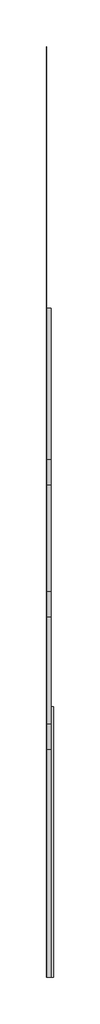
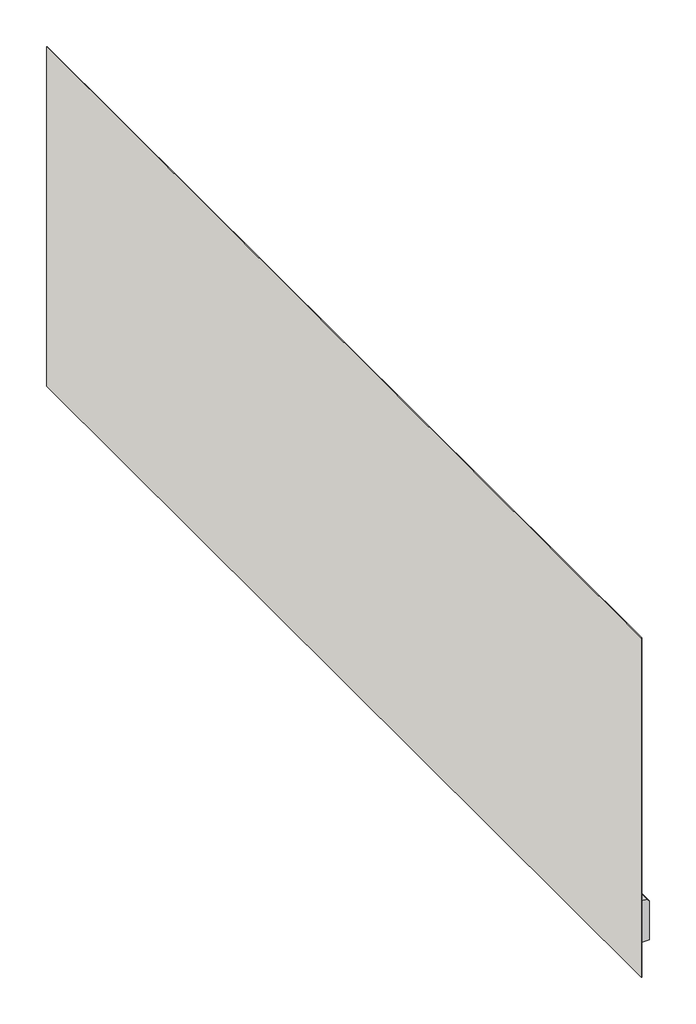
# One storey: 4 proxies, 1 wall.
"""IFC4 building model written with IfcOpenShell, lengths in millimetres."""

from ifc_helpers import new_model, si_unit, frame, origin, place, context, project, spatial, polyline, outline, extrude, transform, mapped, element, save
from components import generic_models_5bab8272, generic_models_3fcc1150

model = new_model("IFC4")

# Units and contexts
model_context = context("Model", 3, world=origin())
ifc_project = project(units=[si_unit("LENGTHUNIT", "METRE", prefix="MILLI")], contexts=[model_context])

# Site, building, storey
site = spatial("IfcSite", under=ifc_project)
building = spatial("IfcBuilding", under=site)
storey = spatial("IfcBuildingStorey", under=building, Name="- EXAGRES_Catalogo ESCALERAS", Elevation=34000.0)

# Proxies
placement = place(None, origin())
element("IfcBuildingElementProxy", 1, Name="Exagres_Yoho_Oak_Rodapie_9x60", ObjectType="Exagres_Yoho_Oak_Rodapie_9x60", at=placement, inside=storey, context=model_context, shape_type="SweptSolid", body=[
    extrude(outline(polyline([(33910.0, -451.9029047), (33820.0, -451.9029047), (33820.0, -436.9029047), (33905.0, -436.9029047), (33910.0, -441.9029047), (33910.0, -451.9029047)])), frame((0.0, -15678.6587674, 0.0), z_axis=(0.0, 1.0, 0.0), x_axis=(0.0, 0.0, 1.0)), (0.0, 0.0, 1.0), 613.1093024),
])
generic_models_shape = generic_models_5bab8272(model_context)
element("IfcBuildingElementProxy", 2, Name="Zanquin Recto 42.3x17.5 : Exagres_Yoho_Oak_Zanquín_Rect_Izq", ObjectType="Zanquin Recto 42.3x17.5 : Exagres_Yoho_Oak_Zanquín_Rect_Izq", at=placement, inside=storey, context=model_context, shape_type="MappedRepresentation", body=[
    mapped(generic_models_shape, transform((-451.9029047, -15061.6587674, 33987.3684211), x_axis=(0.0, 1.0, 0.0), y_axis=(0.0, 0.0, 1.0), z_axis=(1.0, 0.0, 0.0))),
])
generic_models_2_shape = generic_models_3fcc1150(model_context)
element("IfcBuildingElementProxy", 3, Name="Zanquin Recto 42.3x17.5 : Exagres_Yoho_Oak_Zanquín_Rect_Izq", ObjectType="Zanquin Recto 42.3x17.5 : Exagres_Yoho_Oak_Zanquín_Rect_Izq", at=placement, inside=storey, context=model_context, shape_type="MappedRepresentation", body=[
    mapped(generic_models_2_shape, transform((-451.9029047, -14761.6587674, 34154.7368421), x_axis=(0.0, 1.0, 0.0), y_axis=(0.0, 0.0, 1.0), z_axis=(1.0, 0.0, 0.0))),
])
element("IfcBuildingElementProxy", 4, Name="Zanquin Recto 42.3x17.5 : Exagres_Yoho_Oak_Zanquín_Rect_Izq", ObjectType="Zanquin Recto 42.3x17.5 : Exagres_Yoho_Oak_Zanquín_Rect_Izq", at=placement, inside=storey, context=model_context, shape_type="MappedRepresentation", body=[
    mapped(generic_models_2_shape, transform((-451.9029047, -14461.6587674, 34322.1052632), x_axis=(0.0, 1.0, 0.0), y_axis=(0.0, 0.0, 1.0), z_axis=(1.0, 0.0, 0.0))),
])

# Wall
element("IfcWall", 5, ObjectType="Muro básico:muro", at=placement, inside=storey, context=model_context, shape_type="SweptSolid", body=[
    extrude(outline(polyline([(-452.9029047, -15678.6587674), (-452.9029047, -13568.6587674), (-451.9029047, -13568.6587674), (-451.9029047, -15678.6587674), (-452.9029047, -15678.6587674)])), frame((0.0, 0.0, 33744.3153552), z_axis=(0.0, 0.0, 1.0), x_axis=(1.0, 0.0, 0.0)), (0.0, 0.0, 1.0), 734.4858442),
])

save(model, "model.ifc")
